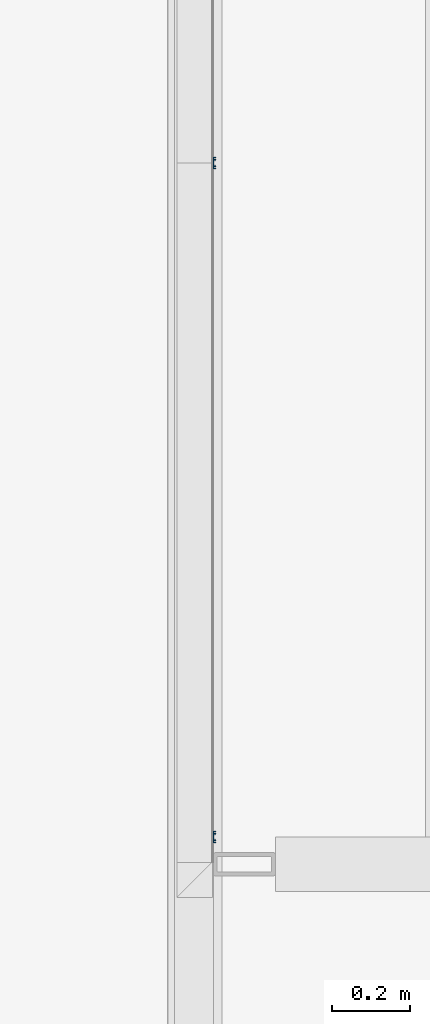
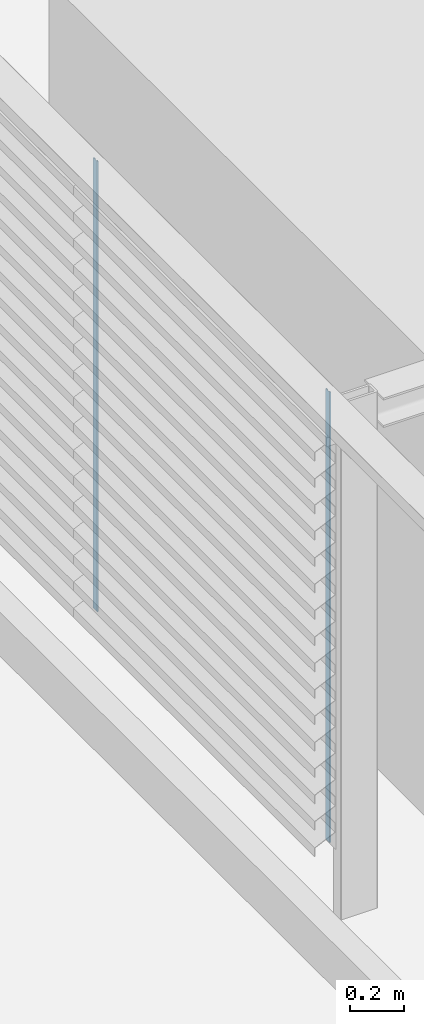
# One storey, part 5 of 32: 2 members, 1 element without a shape of its own.
"""IFC2X3 building model written with IfcOpenShell, lengths in millimetres."""

from ifc_helpers import new_model, entity, si_unit, converted_unit, derived_unit, direction, frame, frame_2d, origin, place, context, subcontext, project, spatial, polyline, circle_curve, parameter, trimmed, segment, composite_curve, outline, extrude, source, transform, mapped, material, type_object, type_shapes, element, aggregate, save


model = new_model("IFC2X3")

# Units and contexts
model_context = context("Model", 3, precision=0.01, world=origin(), true_north=direction((6.123031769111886e-17, 1.0)))
body_context = subcontext(model_context, "Body", "Model", "MODEL_VIEW")
ifc_project = project(units=[si_unit("LENGTHUNIT", "METRE", prefix="MILLI"), si_unit("AREAUNIT", "SQUARE_METRE"), si_unit("VOLUMEUNIT", "CUBIC_METRE"), converted_unit("PLANEANGLEUNIT", "DEGREE", entity("IfcRatioMeasure", 0.017453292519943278), si_unit("PLANEANGLEUNIT", "RADIAN"), dimensions=[0, 0, 0, 0, 0, 0, 0]), si_unit("MASSUNIT", "GRAM", prefix="KILO"), derived_unit("MASSDENSITYUNIT", [(si_unit("MASSUNIT", "GRAM", prefix="KILO"), 1), (si_unit("LENGTHUNIT", "METRE"), -3)]), derived_unit("IONCONCENTRATIONUNIT", [(si_unit("MASSUNIT", "GRAM", prefix="KILO"), 1), (si_unit("LENGTHUNIT", "METRE"), -3)]), derived_unit("MOMENTOFINERTIAUNIT", [(si_unit("LENGTHUNIT", "METRE"), 4)]), si_unit("TIMEUNIT", "SECOND"), si_unit("FREQUENCYUNIT", "HERTZ"), si_unit("THERMODYNAMICTEMPERATUREUNIT", "DEGREE_CELSIUS"), derived_unit("THERMALTRANSMITTANCEUNIT", [(si_unit("MASSUNIT", "GRAM", prefix="KILO"), 1), (si_unit("THERMODYNAMICTEMPERATUREUNIT", "KELVIN"), -1), (si_unit("TIMEUNIT", "SECOND"), -3)]), derived_unit("THERMALCONDUCTANCEUNIT", [(si_unit("MASSUNIT", "GRAM", prefix="KILO"), 1), (si_unit("THERMODYNAMICTEMPERATUREUNIT", "KELVIN"), -1), (si_unit("TIMEUNIT", "SECOND"), -3), (si_unit("LENGTHUNIT", "METRE"), 1)]), derived_unit("VOLUMETRICFLOWRATEUNIT", [(si_unit("LENGTHUNIT", "METRE"), 3), (si_unit("TIMEUNIT", "SECOND"), -1)]), derived_unit("MASSFLOWRATEUNIT", [(si_unit("MASSUNIT", "GRAM", prefix="KILO"), 1), (si_unit("TIMEUNIT", "SECOND"), -1)]), derived_unit("ROTATIONALFREQUENCYUNIT", [(si_unit("TIMEUNIT", "SECOND"), -1)]), si_unit("ELECTRICCURRENTUNIT", "AMPERE"), si_unit("ELECTRICVOLTAGEUNIT", "VOLT"), si_unit("POWERUNIT", "WATT"), si_unit("FORCEUNIT", "NEWTON", prefix="KILO"), si_unit("ILLUMINANCEUNIT", "LUX"), si_unit("LUMINOUSFLUXUNIT", "LUMEN"), si_unit("LUMINOUSINTENSITYUNIT", "CANDELA"), derived_unit("USERDEFINED", [(si_unit("MASSUNIT", "GRAM", prefix="KILO"), -1), (si_unit("LENGTHUNIT", "METRE"), -2), (si_unit("TIMEUNIT", "SECOND"), 3), (si_unit("LUMINOUSFLUXUNIT", "LUMEN"), 1)]), derived_unit("USERDEFINED", [(si_unit("MASSUNIT", "GRAM", prefix="KILO"), 1), (si_unit("TIMEUNIT", "SECOND"), -3), (si_unit("LENGTHUNIT", "METRE"), 3), (si_unit("ELECTRICCURRENTUNIT", "AMPERE"), -2)]), derived_unit("SOUNDPOWERUNIT", [(si_unit("MASSUNIT", "GRAM", prefix="KILO"), 1), (si_unit("TIMEUNIT", "SECOND"), -3), (si_unit("LENGTHUNIT", "METRE"), 2)]), derived_unit("SOUNDPRESSUREUNIT", [(si_unit("MASSUNIT", "GRAM", prefix="KILO"), 1), (si_unit("LENGTHUNIT", "METRE"), -1), (si_unit("TIMEUNIT", "SECOND"), -2)]), derived_unit("LINEARVELOCITYUNIT", [(si_unit("LENGTHUNIT", "METRE"), 1), (si_unit("TIMEUNIT", "SECOND"), -1)]), si_unit("PRESSUREUNIT", "PASCAL"), derived_unit("USERDEFINED", [(si_unit("MASSUNIT", "GRAM", prefix="KILO"), 1), (si_unit("LENGTHUNIT", "METRE"), -2), (si_unit("TIMEUNIT", "SECOND"), -2)]), derived_unit("LINEARFORCEUNIT", [(si_unit("MASSUNIT", "GRAM", prefix="KILO"), 1), (si_unit("TIMEUNIT", "SECOND"), -2)]), derived_unit("PLANARFORCEUNIT", [(si_unit("MASSUNIT", "GRAM", prefix="KILO"), 1), (si_unit("LENGTHUNIT", "METRE"), -1), (si_unit("TIMEUNIT", "SECOND"), -2)]), derived_unit("SPECIFICHEATCAPACITYUNIT", [(si_unit("THERMODYNAMICTEMPERATUREUNIT", "KELVIN"), -1), (si_unit("LENGTHUNIT", "METRE"), 2), (si_unit("TIMEUNIT", "SECOND"), -2)]), derived_unit("HEATINGVALUEUNIT", [(si_unit("LENGTHUNIT", "METRE"), 2), (si_unit("TIMEUNIT", "SECOND"), -2)]), derived_unit("VAPORPERMEABILITYUNIT", [(si_unit("LENGTHUNIT", "METRE"), -1), (si_unit("TIMEUNIT", "SECOND"), 1)]), derived_unit("DYNAMICVISCOSITYUNIT", [(si_unit("MASSUNIT", "GRAM", prefix="KILO"), 1), (si_unit("TIMEUNIT", "SECOND"), -1), (si_unit("LENGTHUNIT", "METRE"), -1)]), derived_unit("THERMALEXPANSIONCOEFFICIENTUNIT", [(si_unit("THERMODYNAMICTEMPERATUREUNIT", "KELVIN"), -1)]), derived_unit("MODULUSOFELASTICITYUNIT", [(si_unit("MASSUNIT", "GRAM", prefix="KILO"), 1), (si_unit("LENGTHUNIT", "METRE"), -1), (si_unit("TIMEUNIT", "SECOND"), -2)]), derived_unit("ISOTHERMALMOISTURECAPACITYUNIT", [(si_unit("LENGTHUNIT", "METRE"), 3), (si_unit("MASSUNIT", "GRAM", prefix="KILO"), -1)]), derived_unit("MOISTUREDIFFUSIVITYUNIT", [(si_unit("TIMEUNIT", "SECOND"), -1), (si_unit("LENGTHUNIT", "METRE"), 2)])], contexts=[model_context])

# Site, building, storey
site_placement = place(None, frame((0.0, 300.0, 0.0)))
site = spatial("IfcSite", under=ifc_project, at=site_placement, Name="<Kadastrale nummers>", CompositionType="ELEMENT")
building_placement = place(site_placement, origin())
building = spatial("IfcBuilding", under=site, at=building_placement, CompositionType="ELEMENT")
storey_placement = place(building_placement, frame((0.0, 0.0, 7150.000035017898)))
storey = spatial("IfcBuildingStorey", under=building, at=storey_placement, Name="02 tweede verdieping", CompositionType="ELEMENT", Elevation=7150.000035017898)

# Curtain wall, members
curtain_wall_type = type_object("IfcCurtainWallType", Name="Curtain Wall:NLRS_21_CWA_lamellenwand Linius - L.120 met LD.0065_Storax", PredefinedType="NOTDEFINED")
curtain_wall_placement = place(storey_placement, frame((0.0, 0.0, -7150.000035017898)))
curtain_wall = element("IfcCurtainWall", 1, at=curtain_wall_placement, inside=storey, type_object=curtain_wall_type, Name="Curtain Wall:NLRS_21_CWA_lamellenwand Linius - L.120 met LD.0065_Storax", ObjectType="Curtain Wall:NLRS_21_CWA_lamellenwand Linius - L.120 met LD.0065_Storax")
ifc_material = material(Name="STAAL_RAL 7006")
member_type_1 = type_object("IfcMemberType", Name="Rectangular Mullion:NLRS_21_CWM_drager LD.0065 - links_Storax", PredefinedType="MULLION", material=ifc_material)
shared_shape_1 = source(origin(), body_context, "Body", "SweptSolid", [
    extrude(outline(composite_curve([segment(polyline([(-3.696834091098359, -14.998975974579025), (1.4234637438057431, -14.998975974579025)]), True, "CONTINUOUS"), segment(trimmed(circle_curve(frame_2d((1.4234637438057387, -13.998975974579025), x_axis=(0.0, -1.0)), 0.9999999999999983), [parameter(0.0)], [parameter(241.34010185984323)], True, "PARAMETER"), True, "CONTINUOUS"), segment(polyline([(0.5459816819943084, -13.519366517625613), (-2.196834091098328, -13.519366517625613)]), True, "CONTINUOUS"), segment(polyline([(-2.196834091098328, -13.519366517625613), (-2.196834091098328, -9.646548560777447)]), True, "CONTINUOUS"), segment(polyline([(-2.196834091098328, -9.646548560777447), (2.8031659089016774, -9.646548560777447)]), True, "CONTINUOUS"), segment(polyline([(2.8031659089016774, -9.646548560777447), (2.8031659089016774, -7.885916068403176)]), True, "CONTINUOUS"), segment(polyline([(2.8031659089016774, -7.885916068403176), (1.6031201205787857, -7.885916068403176)]), True, "CONTINUOUS"), segment(polyline([(1.6031201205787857, -7.885916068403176), (1.6031201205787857, -6.358836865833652)]), True, "CONTINUOUS"), segment(polyline([(1.6031201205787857, -6.358836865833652), (-0.24734056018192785, -6.358836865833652)]), True, "CONTINUOUS"), segment(polyline([(-0.24734056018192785, -6.358836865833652), (-0.24734056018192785, -7.885916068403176)]), True, "CONTINUOUS"), segment(polyline([(-0.24734056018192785, -7.885916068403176), (-2.1968340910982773, -7.885916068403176)]), True, "CONTINUOUS"), segment(polyline([(-2.1968340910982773, -7.885916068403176), (-2.1968340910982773, 7.887964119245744)]), True, "CONTINUOUS"), segment(polyline([(-2.1968340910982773, 7.887964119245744), (-0.24734056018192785, 7.887964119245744)]), True, "CONTINUOUS"), segment(polyline([(-0.24734056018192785, 7.887964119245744), (-0.24734056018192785, 6.348596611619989)]), True, "CONTINUOUS"), segment(polyline([(-0.24734056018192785, 6.348596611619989), (1.6031201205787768, 6.348596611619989)]), True, "CONTINUOUS"), segment(polyline([(1.6031201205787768, 6.348596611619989), (1.6031201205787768, 7.887964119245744)]), True, "CONTINUOUS"), segment(polyline([(1.6031201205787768, 7.887964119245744), (2.8031659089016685, 7.887964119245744)]), True, "CONTINUOUS"), segment(polyline([(2.8031659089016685, 7.887964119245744), (2.8031659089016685, 9.648596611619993)]), True, "CONTINUOUS"), segment(polyline([(2.8031659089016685, 9.648596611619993), (-2.1968340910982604, 9.648596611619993)]), True, "CONTINUOUS"), segment(polyline([(-2.1968340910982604, 9.648596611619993), (-2.1968340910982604, 13.521414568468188)]), True, "CONTINUOUS"), segment(polyline([(-2.1968340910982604, 13.521414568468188), (0.5459816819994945, 13.521414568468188)]), True, "CONTINUOUS"), segment(trimmed(circle_curve(frame_2d((1.4234637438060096, 14.001024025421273), x_axis=(-0.8774820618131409, -0.4796094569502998)), 0.9999999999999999), [parameter(0.0)], [parameter(241.34010185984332)], True, "PARAMETER"), True, "CONTINUOUS"), segment(polyline([(1.423463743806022, 15.001024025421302), (-3.696834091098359, 15.001024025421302)]), True, "CONTINUOUS"), segment(polyline([(-3.696834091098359, 15.001024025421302), (-3.696834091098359, -14.998975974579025)]), True, "CONTINUOUS")], self_intersect=False)), frame((-65.0010240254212, -4.696834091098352, -2049.999964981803), z_axis=(0.0, 0.0, 1.0), x_axis=(0.0, -1.0, 0.0)), (0.0, 0.0, 1.0), 2049.999964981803),
])
type_shapes(member_type_1, [shared_shape_1])
member_1_placement = place(curtain_wall_placement, frame((38414.0, 31805.0, 7650.000035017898), z_axis=(0.0, 0.0, -1.0), x_axis=(0.0, -1.0, 0.0)))
member_1 = element("IfcMember", 2, at=member_1_placement, type_object=member_type_1, material=ifc_material, Name="Rectangular Mullion:NLRS_21_CWM_drager LD.0065 - links_Storax", ObjectType="Rectangular Mullion:NLRS_21_CWM_drager LD.0065 - links_Storax", context=body_context, shape_type="MappedRepresentation", body=[
    mapped(shared_shape_1, transform((0.0, 0.0, 0.0), scale=1.0)),
])
member_type_2 = type_object("IfcMemberType", Name="Rectangular Mullion:NLRS_21_CWM_drager LD.0065_Storax", PredefinedType="MULLION", material=ifc_material)
shared_shape_2 = source(origin(), body_context, "Body", "SweptSolid", [
    extrude(outline(composite_curve([segment(polyline([(-3.69683409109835, -14.99897597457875), (1.4234637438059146, -14.99897597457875)]), True, "CONTINUOUS"), segment(trimmed(circle_curve(frame_2d((1.4234637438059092, -13.998975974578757), x_axis=(0.0, -1.0)), 1.0000000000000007), [parameter(0.0)], [parameter(241.3401018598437)], True, "PARAMETER"), True, "CONTINUOUS"), segment(polyline([(0.5459816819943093, -13.519366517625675), (-2.196834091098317, -13.519366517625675)]), True, "CONTINUOUS"), segment(polyline([(-2.196834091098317, -13.519366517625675), (-2.196834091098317, -9.646548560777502)]), True, "CONTINUOUS"), segment(polyline([(-2.196834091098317, -9.646548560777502), (2.80316590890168, -9.646548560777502)]), True, "CONTINUOUS"), segment(polyline([(2.80316590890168, -9.646548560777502), (2.80316590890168, -7.885916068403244)]), True, "CONTINUOUS"), segment(polyline([(2.80316590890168, -7.885916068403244), (1.6031201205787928, -7.885916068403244)]), True, "CONTINUOUS"), segment(polyline([(1.6031201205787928, -7.885916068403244), (1.6031201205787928, -6.358836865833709)]), True, "CONTINUOUS"), segment(polyline([(1.6031201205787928, -6.358836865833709), (-0.24734056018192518, -6.358836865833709)]), True, "CONTINUOUS"), segment(polyline([(-0.24734056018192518, -6.358836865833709), (-0.24734056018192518, -7.885916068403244)]), True, "CONTINUOUS"), segment(polyline([(-0.24734056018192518, -7.885916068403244), (-2.1968340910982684, -7.885916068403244)]), True, "CONTINUOUS"), segment(polyline([(-2.1968340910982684, -7.885916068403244), (-2.1968340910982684, 7.887964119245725)]), True, "CONTINUOUS"), segment(polyline([(-2.1968340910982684, 7.887964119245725), (-0.24734056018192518, 7.887964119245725)]), True, "CONTINUOUS"), segment(polyline([(-0.24734056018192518, 7.887964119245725), (-0.24734056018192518, 6.3485966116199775)]), True, "CONTINUOUS"), segment(polyline([(-0.24734056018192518, 6.3485966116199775), (1.6031201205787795, 6.3485966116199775)]), True, "CONTINUOUS"), segment(polyline([(1.6031201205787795, 6.3485966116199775), (1.6031201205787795, 7.887964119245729)]), True, "CONTINUOUS"), segment(polyline([(1.6031201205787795, 7.887964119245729), (2.8031659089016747, 7.887964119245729)]), True, "CONTINUOUS"), segment(polyline([(2.8031659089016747, 7.887964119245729), (2.8031659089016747, 9.64859661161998)]), True, "CONTINUOUS"), segment(polyline([(2.8031659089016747, 9.64859661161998), (-2.196834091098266, 9.64859661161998)]), True, "CONTINUOUS"), segment(polyline([(-2.196834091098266, 9.64859661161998), (-2.196834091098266, 13.52141456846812)]), True, "CONTINUOUS"), segment(polyline([(-2.196834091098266, 13.52141456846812), (0.545981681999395, 13.52141456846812)]), True, "CONTINUOUS"), segment(trimmed(circle_curve(frame_2d((1.4234637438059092, 14.00102402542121), x_axis=(-0.8774820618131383, -0.47960945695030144)), 0.9999999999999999), [parameter(0.0)], [parameter(241.34010185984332)], True, "PARAMETER"), True, "CONTINUOUS"), segment(polyline([(1.423463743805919, 15.001024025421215), (-3.69683409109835, 15.001024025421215)]), True, "CONTINUOUS"), segment(polyline([(-3.69683409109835, 15.001024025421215), (-3.69683409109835, -14.99897597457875)]), True, "CONTINUOUS")], self_intersect=False)), frame((-0.0010240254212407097, -4.696834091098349, -2049.999964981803), z_axis=(0.0, 0.0, 1.0), x_axis=(0.0, -1.0, 0.0)), (0.0, 0.0, 1.0), 2049.999964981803),
])
type_shapes(member_type_2, [shared_shape_2])
member_2_placement = place(curtain_wall_placement, frame((38414.0, 33602.500000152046, 7650.000035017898), z_axis=(0.0, 0.0, -1.0), x_axis=(0.0, -1.0, 0.0)))
member_2 = element("IfcMember", 3, at=member_2_placement, type_object=member_type_2, material=ifc_material, Name="Rectangular Mullion:NLRS_21_CWM_drager LD.0065_Storax", ObjectType="Rectangular Mullion:NLRS_21_CWM_drager LD.0065_Storax", context=body_context, shape_type="MappedRepresentation", body=[
    mapped(shared_shape_2, transform((0.0, 0.0, 0.0), scale=1.0)),
])
aggregate(curtain_wall, [member_1, member_2])

save(model, "model.ifc")
